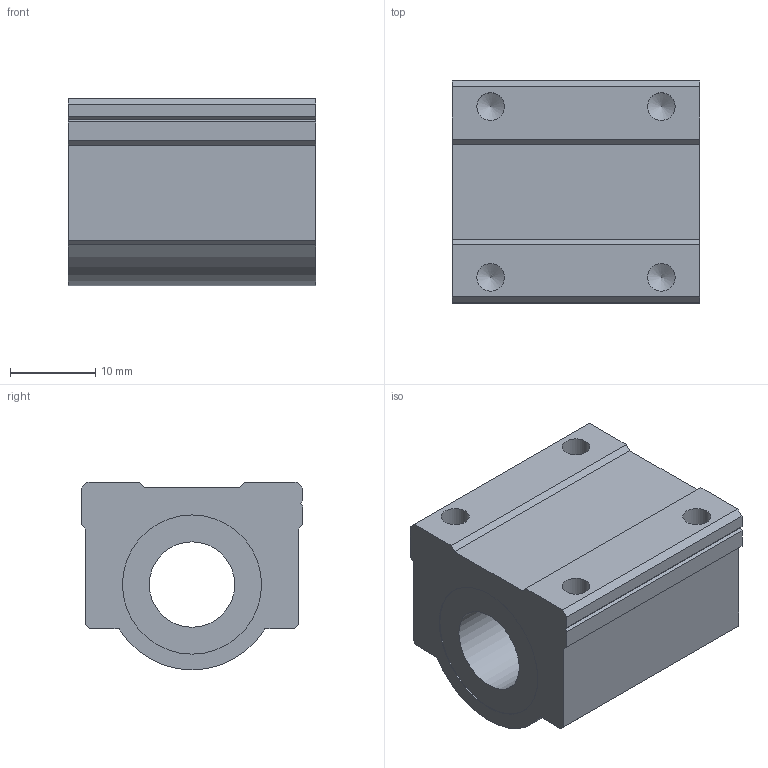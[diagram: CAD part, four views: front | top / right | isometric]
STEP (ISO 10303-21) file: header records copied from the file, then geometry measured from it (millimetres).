
FILE_DESCRIPTION((''),'2;1');
FILE_NAME('D:\製品 (図面)\カタログ用3D\リニアベアリング関連\STEP形式\LCH\LCH10.stp','2010-06-02T17:39:01',('Tsuchiya'),(''),'Autodesk Inventor 10','Autodesk Inventor 10','');
FILE_SCHEMA(('AUTOMOTIVE_DESIGN { 1 0 10303 214 1 1 1 1 }'));
Length unit declared in the file: millimetre
Products named in the file (1): LCH10
Bounding box: 29 x 26 x 22 mm (x, y, z)
Volume: 11589.7 mm3; surface area: 4522.5 mm2
Topology: 1 solids, 1 shells, 38 faces, 100 edges, 67 vertices
Faces by surface type: plane 24, cylinder 7, bspline 5, cone 2
Full cylindrical faces by diameter (mm): 3.242 x2, 10 x1, 16.3 x2
Entity records: 1160 total; most frequent: CARTESIAN_POINT 303, DIRECTION 163, ORIENTED_EDGE 158, EDGE_CURVE 79, VECTOR 61, LINE 61, VERTEX_POINT 58, EDGE_LOOP 55
